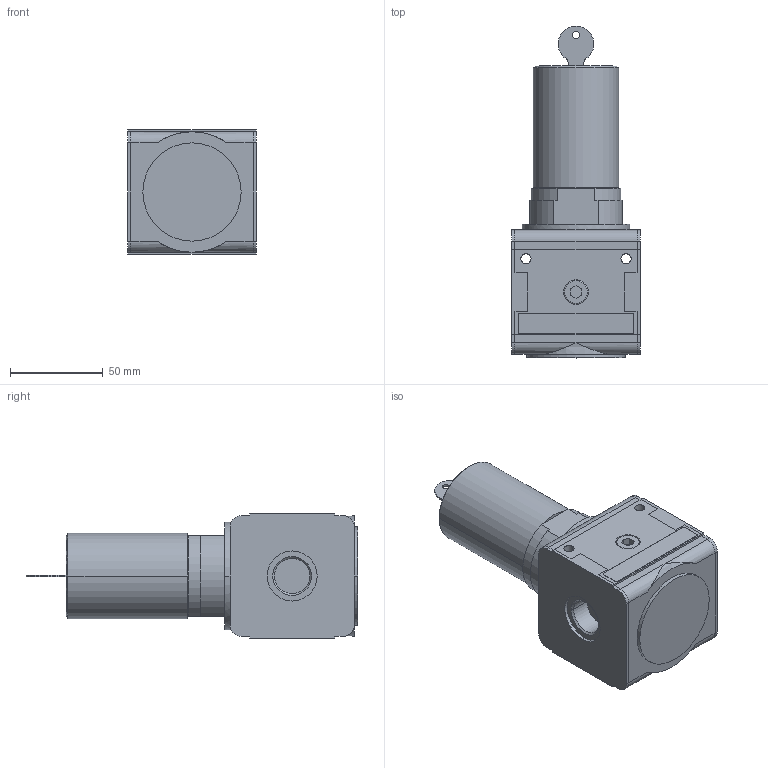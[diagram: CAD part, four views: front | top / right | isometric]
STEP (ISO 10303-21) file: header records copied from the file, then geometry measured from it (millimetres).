
FILE_DESCRIPTION((''),'2;1');
FILE_NAME('0821302503_ASM','2019-03-21T',('hug2hc'),(''),'CREO PARAMETRIC BY PTC INC, 2016260','CREO PARAMETRIC BY PTC INC, 2016260','');
FILE_SCHEMA(('CONFIG_CONTROL_DESIGN'));
Length unit declared in the file: millimetre
Products named in the file (3): 0821302503; 0821302503-B; 0821302503_ASM
Assembly tree (3 placements, depth 2):
  0821302503_ASM
    0821302503
    0821302503-B  x2
Bounding box: 69.5 x 179.1 x 67.4 mm (x, y, z)
Volume: 452873.4 mm3; surface area: 63388.9 mm2
Topology: 3 solids, 3 shells, 178 faces, 464 edges, 304 vertices
Faces by surface type: plane 111, cylinder 57, cone 8, torus 2
Entity records: 4745 total; most frequent: CARTESIAN_POINT 868, DIRECTION 806, ORIENTED_EDGE 772, EDGE_CURVE 386, VECTOR 270, LINE 270, AXIS2_PLACEMENT_3D 268, VERTEX_POINT 252
